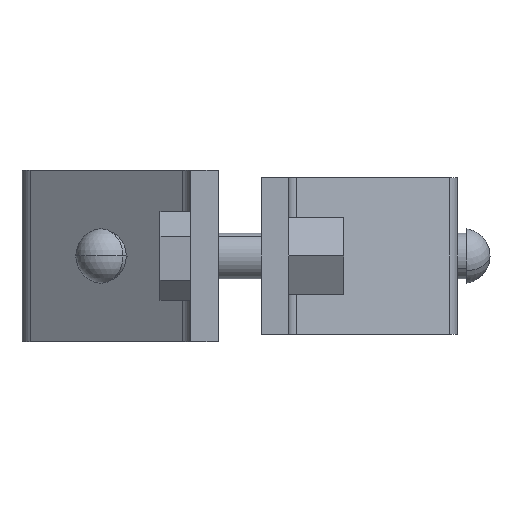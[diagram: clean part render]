
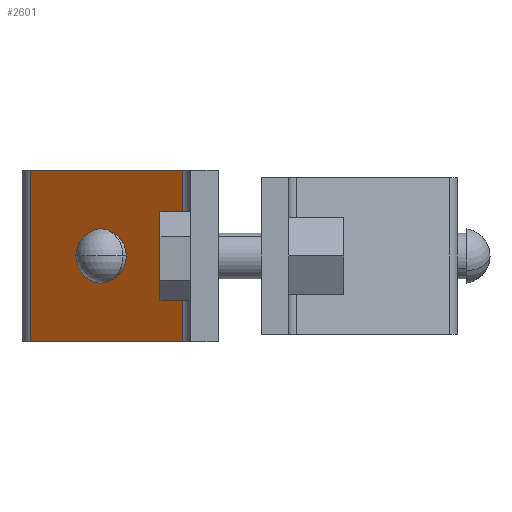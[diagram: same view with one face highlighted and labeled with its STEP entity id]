
A CAD part, left-side view. The second image highlights one B-rep face of the part: STEP entity #2601.
In plain terms, the highlighted planar face has unit normal (-0.809, 0.588, 0).
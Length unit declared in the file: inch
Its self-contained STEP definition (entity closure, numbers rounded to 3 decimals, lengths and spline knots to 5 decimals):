
#48 = DIRECTION ( 'NONE',  ( -0.588, -0.809, 0. ) ) ;
#55 = CARTESIAN_POINT ( 'NONE',  ( 0.80494, 0.22849, 0. ) ) ;
#71 = CARTESIAN_POINT ( 'NONE',  ( 1.16125, 0.7185, -0.552 ) ) ;
#152 = EDGE_CURVE ( 'NONE', #2200, #545, #390, .T. ) ;
#243 = CIRCLE ( 'NONE', #987, 0.1575 ) ;
#331 = CARTESIAN_POINT ( 'NONE',  ( 1.06862, 0.59112, -0.552 ) ) ;
#337 = ORIENTED_EDGE ( 'NONE', *, *, #2208, .T. ) ;
#390 = CIRCLE ( 'NONE', #2473, 0.1575 ) ;
#504 = LINE ( 'NONE', #1980, #656 ) ;
#519 = CARTESIAN_POINT ( 'NONE',  ( 1.51756, 1.20851, -1.104 ) ) ;
#535 = DIRECTION ( 'NONE',  ( 0., 0., -1. ) ) ;
#541 = CARTESIAN_POINT ( 'NONE',  ( 1.51756, 1.20851, -1.104 ) ) ;
#545 = VERTEX_POINT ( 'NONE', #331 ) ;
#656 = VECTOR ( 'NONE', #48, 39.37008 ) ;
#714 = ORIENTED_EDGE ( 'NONE', *, *, #2765, .F. ) ;
#768 = DIRECTION ( 'NONE',  ( -0.809, 0.588, 0. ) ) ;
#789 = CARTESIAN_POINT ( 'NONE',  ( 1.16125, 0.7185, -0.552 ) ) ;
#799 = LINE ( 'NONE', #519, #825 ) ;
#812 = DIRECTION ( 'NONE',  ( -0.588, -0.809, 0. ) ) ;
#825 = VECTOR ( 'NONE', #535, 39.37008 ) ;
#987 = AXIS2_PLACEMENT_3D ( 'NONE', #71, #1810, #812 ) ;
#1204 = EDGE_CURVE ( 'NONE', #3159, #1398, #2718, .T. ) ;
#1246 = VECTOR ( 'NONE', #2944, 39.37008 ) ;
#1248 = FACE_BOUND ( 'NONE', #2404, .T. ) ;
#1251 = CARTESIAN_POINT ( 'NONE',  ( 1.25388, 0.84588, -0.552 ) ) ;
#1317 = CARTESIAN_POINT ( 'NONE',  ( 0.80494, 0.22849, 0. ) ) ;
#1398 = VERTEX_POINT ( 'NONE', #55 ) ;
#1518 = ORIENTED_EDGE ( 'NONE', *, *, #1204, .F. ) ;
#1592 = CARTESIAN_POINT ( 'NONE',  ( 1.51756, 1.20851, 0. ) ) ;
#1723 = EDGE_CURVE ( 'NONE', #2204, #1398, #1787, .T. ) ;
#1730 = VERTEX_POINT ( 'NONE', #541 ) ;
#1783 = DIRECTION ( 'NONE',  ( -0.588, -0.809, 0. ) ) ;
#1786 = EDGE_LOOP ( 'NONE', ( #1518, #2141, #337, #1816 ) ) ;
#1787 = LINE ( 'NONE', #1317, #2782 ) ;
#1810 = DIRECTION ( 'NONE',  ( -0.809, 0.588, 0. ) ) ;
#1816 = ORIENTED_EDGE ( 'NONE', *, *, #1723, .T. ) ;
#1975 = DIRECTION ( 'NONE',  ( -0.588, -0.809, 0. ) ) ;
#1980 = CARTESIAN_POINT ( 'NONE',  ( 0.7675, 0.177, -1.104 ) ) ;
#2002 = PLANE ( 'NONE',  #2588 ) ;
#2084 = ORIENTED_EDGE ( 'NONE', *, *, #152, .F. ) ;
#2141 = ORIENTED_EDGE ( 'NONE', *, *, #2671, .T. ) ;
#2200 = VERTEX_POINT ( 'NONE', #1251 ) ;
#2204 = VERTEX_POINT ( 'NONE', #3003 ) ;
#2208 = EDGE_CURVE ( 'NONE', #1730, #2204, #504, .T. ) ;
#2233 = FACE_OUTER_BOUND ( 'NONE', #1786, .T. ) ;
#2294 = DIRECTION ( 'NONE',  ( 0., 0., 1. ) ) ;
#2404 = EDGE_LOOP ( 'NONE', ( #714, #2084 ) ) ;
#2415 = CARTESIAN_POINT ( 'NONE',  ( 0.7675, 0.177, 0. ) ) ;
#2473 = AXIS2_PLACEMENT_3D ( 'NONE', #789, #2757, #1783 ) ;
#2588 = AXIS2_PLACEMENT_3D ( 'NONE', #2979, #768, #1975 ) ;
#2601 = ADVANCED_FACE ( 'NONE', ( #1248, #2233 ), #2002, .T. ) ;
#2671 = EDGE_CURVE ( 'NONE', #3159, #1730, #799, .T. ) ;
#2718 = LINE ( 'NONE', #2415, #1246 ) ;
#2757 = DIRECTION ( 'NONE',  ( -0.809, 0.588, 0. ) ) ;
#2765 = EDGE_CURVE ( 'NONE', #545, #2200, #243, .T. ) ;
#2782 = VECTOR ( 'NONE', #2294, 39.37008 ) ;
#2944 = DIRECTION ( 'NONE',  ( -0.588, -0.809, 0. ) ) ;
#2979 = CARTESIAN_POINT ( 'NONE',  ( 0.7675, 0.177, -1.104 ) ) ;
#3003 = CARTESIAN_POINT ( 'NONE',  ( 0.80494, 0.22849, -1.104 ) ) ;
#3159 = VERTEX_POINT ( 'NONE', #1592 ) ;
